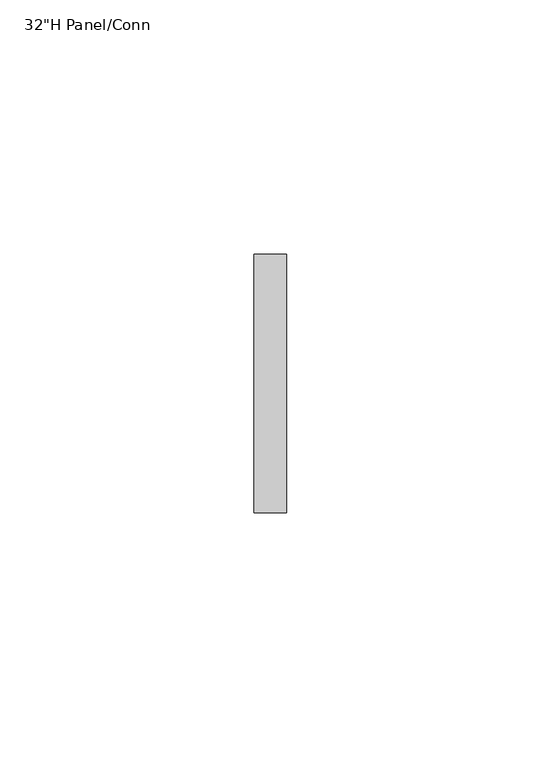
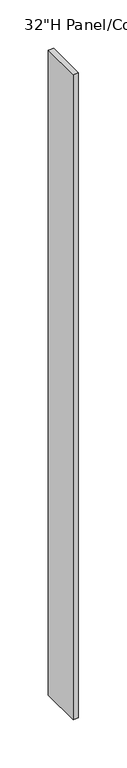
"""IFC4 building model written with IfcOpenShell, lengths in millimetres: furniture geometry."""

from ifc_helpers import new_model, si_unit, frame, origin, place, context, project, spatial, polyline, outline, extrude, source, transform, mapped, element, save


def furniture_14ab3327(model_context):
    return source(origin(), model_context, "Body", "SweptSolid", [
        extrude(outline(polyline([(-60.5209988, 104.9709924), (-60.5209967, 54.1709916), (-66.8709967, 54.1709914), (-66.8709988, 104.9709922), (-60.5209988, 104.9709924)])), frame((0.0, 0.0, 552.4500015), z_axis=(0.0, 0.0, 1.0), x_axis=(1.0, 0.0, 0.0)), (0.0, 0.0, 1.0), 812.8),
    ])


if __name__ == "__main__":
    model = new_model("IFC4")
    model_context = context("Model", 3, world=origin())
    ifc_project = project(units=[si_unit("LENGTHUNIT", "METRE", prefix="MILLI")], contexts=[model_context])
    site = spatial("IfcSite", under=ifc_project)
    building = spatial("IfcBuilding", under=site)
    placement = place(None, origin())
    furniture_shape = furniture_14ab3327(model_context)
    element("IfcFurniture", 1, ObjectType="HermanMiller_ActionOffice_AO259_AO272_FinishedEndChangeOfHeight : 32\"H Panel/Conn", at=placement, inside=building, context=model_context, shape_type="MappedRepresentation", body=[
        mapped(furniture_shape, transform((0.0, 0.0, 0.0), x_axis=(1.0, 0.0, 0.0), y_axis=(0.0, 1.0, 0.0), z_axis=(0.0, 0.0, 1.0))),
    ])
    save(model, "model.ifc")
